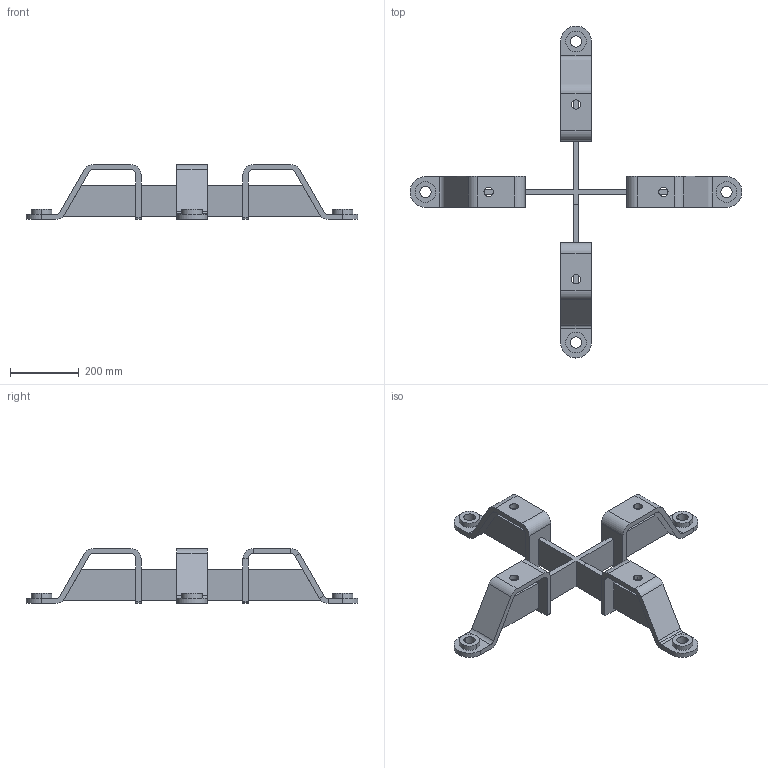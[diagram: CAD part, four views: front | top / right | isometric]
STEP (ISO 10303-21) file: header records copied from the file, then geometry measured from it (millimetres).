
FILE_DESCRIPTION(('CATIA V5 STEP Exchange','CAx-IF Rec.Pracs.--- Model Styling and Organization---1.2---2011-12-15'),'2;1');
FILE_NAME('S:\USER\CAT6\3DPlanerdaten_ab_2012\_pit-cup_ab_03-10-2016\4420\Verankerungssystem_selbst\Verankerung_620mm.stp','2018-04-27T08:23:04+00:00',('none'),('none'),'CATIA Version 5 Release 21 SP 5 (IN-10)','CATIA V5 STEP AP214 Edition 3','none');
FILE_SCHEMA(('AUTOMOTIVE_DESIGN { 1 0 10303 214 3 1 1 1 }'));
Length unit declared in the file: millimetre
Products named in the file (1): Verankerung-620mm
Bounding box: 966.87 x 966.87 x 160 mm (x, y, z)
Volume: 4724683.4 mm3; surface area: 736968 mm2
Topology: 1 solids, 1 shells, 159 faces, 543 edges, 390 vertices
Faces by surface type: plane 88, cylinder 71
Entity records: 5909 total; most frequent: CARTESIAN_POINT 1279, ORIENTED_EDGE 1086, DIRECTION 753, EDGE_CURVE 543, VERTEX_POINT 390, AXIS2_PLACEMENT_3D 334, VECTOR 303, LINE 303
